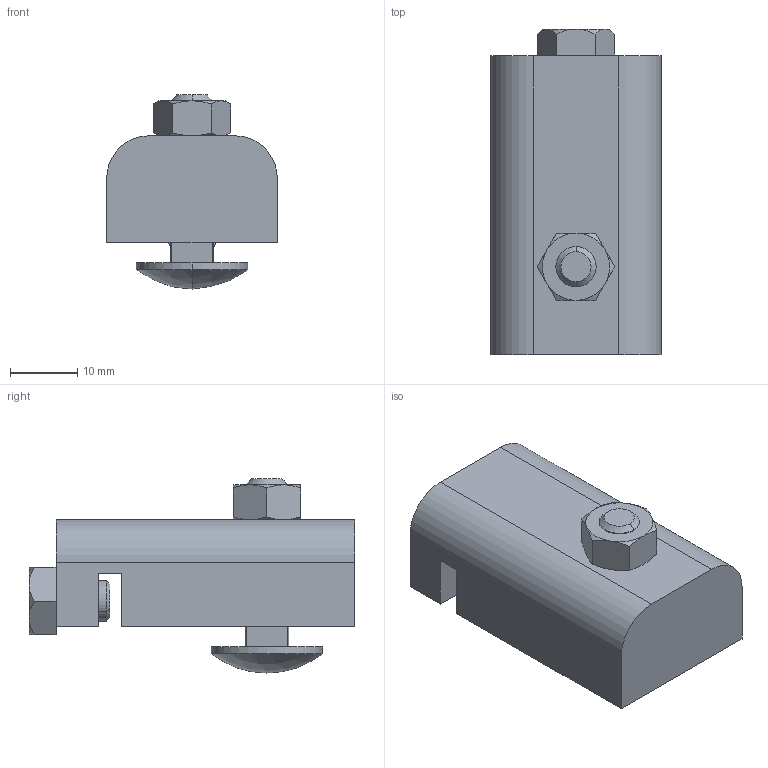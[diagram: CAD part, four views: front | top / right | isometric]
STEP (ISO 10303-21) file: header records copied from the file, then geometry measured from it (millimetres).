
FILE_DESCRIPTION((''),'2;1');
FILE_NAME('531101_ASM','2023-03-02T',('jenni.wallner'),(''),'PRO/ENGINEER BY PARAMETRIC TECHNOLOGY CORPORATION, 2012420','PRO/ENGINEER BY PARAMETRIC TECHNOLOGY CORPORATION, 2012420','');
FILE_SCHEMA(('CONFIG_CONTROL_DESIGN'));
Length unit declared in the file: inch
Products named in the file (6): 900625MSS; 531100_531100; 9606XXM_960608MSS; 990601MSS; ASM0001_ASM; 531101_ASM
Assembly tree (5 placements, depth 3):
  531101_ASM
    ASM0001_ASM
      900625MSS
      531100_531100
      9606XXM_960608MSS
      990601MSS
Bounding box: 25.4 x 48.45 x 28.88 mm (x, y, z)
Volume: 17927.2 mm3; surface area: 6715.9 mm2
Topology: 4 solids, 4 shells, 99 faces, 231 edges, 139 vertices
Faces by surface type: plane 38, cylinder 28, cone 23, sphere 6, bspline 4
Entity records: 3168 total; most frequent: CARTESIAN_POINT 778, DIRECTION 497, ORIENTED_EDGE 454, EDGE_CURVE 227, AXIS2_PLACEMENT_3D 200, VERTEX_POINT 139, EDGE_LOOP 108, FACE_OUTER_BOUND 99
